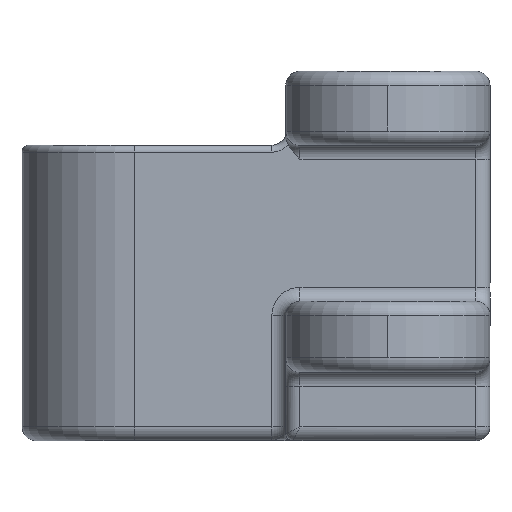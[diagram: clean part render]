
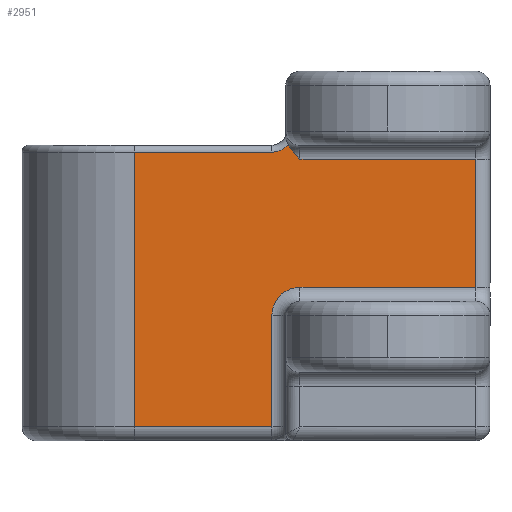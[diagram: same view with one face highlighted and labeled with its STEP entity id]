
A CAD part, left-side view. The second image highlights one B-rep face of the part: STEP entity #2951.
In plain terms, the highlighted planar face has unit normal (-1, 0, 0).
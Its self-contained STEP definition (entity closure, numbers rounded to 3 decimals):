
#29 = CARTESIAN_POINT ( 'NONE',  ( -16., 0., 0. ) ) ;
#60 = VERTEX_POINT ( 'NONE', #584 ) ;
#70 = VECTOR ( 'NONE', #2254, 1000. ) ;
#90 = ORIENTED_EDGE ( 'NONE', *, *, #859, .T. ) ;
#103 = DIRECTION ( 'NONE',  ( 0., -1., 0. ) ) ;
#158 = DIRECTION ( 'NONE',  ( 0., 1., 0. ) ) ;
#182 = CARTESIAN_POINT ( 'NONE',  ( -16., 36., 24.31 ) ) ;
#200 = CARTESIAN_POINT ( 'NONE',  ( -16., 36., 22.51 ) ) ;
#283 = CARTESIAN_POINT ( 'NONE',  ( -16., 14.172, 23.618 ) ) ;
#291 = VERTEX_POINT ( 'NONE', #772 ) ;
#405 = DIRECTION ( 'NONE',  ( 1., 0., 0. ) ) ;
#420 = CARTESIAN_POINT ( 'NONE',  ( -16., 12.5, -0.685 ) ) ;
#424 = CARTESIAN_POINT ( 'NONE',  ( -16., 16.5, -16.485 ) ) ;
#446 = DIRECTION ( 'NONE',  ( 0., 1., 0. ) ) ;
#473 = LINE ( 'NONE', #700, #1469 ) ;
#505 = VERTEX_POINT ( 'NONE', #570 ) ;
#539 = CARTESIAN_POINT ( 'NONE',  ( -16., 13.718, 22.842 ) ) ;
#570 = CARTESIAN_POINT ( 'NONE',  ( -16., 16.5, 22.51 ) ) ;
#584 = CARTESIAN_POINT ( 'NONE',  ( -16., 12.5, 3.315 ) ) ;
#700 = CARTESIAN_POINT ( 'NONE',  ( -16., 0., 21.515 ) ) ;
#740 = EDGE_CURVE ( 'NONE', #2162, #1848, #1975, .T. ) ;
#772 = CARTESIAN_POINT ( 'NONE',  ( -16., 36., 22.51 ) ) ;
#859 = EDGE_CURVE ( 'NONE', #1848, #2383, #2744, .T. ) ;
#928 = EDGE_CURVE ( 'NONE', #2816, #2387, #962, .T. ) ;
#937 = CARTESIAN_POINT ( 'NONE',  ( -16., 14.5, -16.485 ) ) ;
#962 = LINE ( 'NONE', #1856, #2396 ) ;
#1093 = DIRECTION ( 'NONE',  ( 0., 1., 0. ) ) ;
#1100 = EDGE_CURVE ( 'NONE', #2659, #505, #2730, .T. ) ;
#1105 = LINE ( 'NONE', #200, #2683 ) ;
#1139 = AXIS2_PLACEMENT_3D ( 'NONE', #2700, #405, #158 ) ;
#1145 = CARTESIAN_POINT ( 'NONE',  ( -16., 16.5, 6.815 ) ) ;
#1178 = DIRECTION ( 'NONE',  ( 0., -1., 0. ) ) ;
#1212 = EDGE_CURVE ( 'NONE', #60, #2383, #1333, .T. ) ;
#1287 = AXIS2_PLACEMENT_3D ( 'NONE', #420, #2723, #446 ) ;
#1332 = CARTESIAN_POINT ( 'NONE',  ( -16., 16.5, -0.685 ) ) ;
#1333 = CIRCLE ( 'NONE', #1287, 4. ) ;
#1345 = CARTESIAN_POINT ( 'NONE',  ( -16., -12.5, 3.315 ) ) ;
#1358 = DIRECTION ( 'NONE',  ( 0., 1., 0. ) ) ;
#1367 = AXIS2_PLACEMENT_3D ( 'NONE', #29, #2057, #1358 ) ;
#1378 = EDGE_CURVE ( 'NONE', #2516, #2659, #2862, .T. ) ;
#1441 = CARTESIAN_POINT ( 'NONE',  ( -16., 12.5, 21.515 ) ) ;
#1444 = CARTESIAN_POINT ( 'NONE',  ( -16., 13.138, 22.153 ) ) ;
#1469 = VECTOR ( 'NONE', #2117, 1000. ) ;
#1474 = CARTESIAN_POINT ( 'NONE',  ( -16., 13.979, 23.213 ) ) ;
#1495 = EDGE_CURVE ( 'NONE', #60, #2816, #2557, .T. ) ;
#1568 = ORIENTED_EDGE ( 'NONE', *, *, #2882, .T. ) ;
#1600 = PLANE ( 'NONE',  #1367 ) ;
#1683 = ORIENTED_EDGE ( 'NONE', *, *, #740, .T. ) ;
#1687 = ORIENTED_EDGE ( 'NONE', *, *, #1378, .T. ) ;
#1727 = VECTOR ( 'NONE', #1178, 1000. ) ;
#1815 = CARTESIAN_POINT ( 'NONE',  ( -16., 0., 3.315 ) ) ;
#1841 = DIRECTION ( 'NONE',  ( 0., 0., 1. ) ) ;
#1848 = VERTEX_POINT ( 'NONE', #424 ) ;
#1856 = CARTESIAN_POINT ( 'NONE',  ( -16., -12.5, 0. ) ) ;
#1896 = ORIENTED_EDGE ( 'NONE', *, *, #2397, .T. ) ;
#1975 = LINE ( 'NONE', #937, #2105 ) ;
#2009 = CARTESIAN_POINT ( 'NONE',  ( -16., 36., -16.485 ) ) ;
#2057 = DIRECTION ( 'NONE',  ( 1., 0., 0. ) ) ;
#2074 = DIRECTION ( 'NONE',  ( 0., 0., 1. ) ) ;
#2098 = FACE_OUTER_BOUND ( 'NONE', #2937, .T. ) ;
#2105 = VECTOR ( 'NONE', #103, 1000. ) ;
#2117 = DIRECTION ( 'NONE',  ( 0., 1., 0. ) ) ;
#2138 = EDGE_CURVE ( 'NONE', #505, #291, #1105, .T. ) ;
#2162 = VERTEX_POINT ( 'NONE', #2009 ) ;
#2234 = LINE ( 'NONE', #182, #70 ) ;
#2254 = DIRECTION ( 'NONE',  ( 0., 0., -1. ) ) ;
#2260 = ORIENTED_EDGE ( 'NONE', *, *, #2138, .T. ) ;
#2343 = ORIENTED_EDGE ( 'NONE', *, *, #1212, .F. ) ;
#2383 = VERTEX_POINT ( 'NONE', #1332 ) ;
#2387 = VERTEX_POINT ( 'NONE', #2949 ) ;
#2396 = VECTOR ( 'NONE', #1841, 1000. ) ;
#2397 = EDGE_CURVE ( 'NONE', #291, #2162, #2234, .T. ) ;
#2403 = ORIENTED_EDGE ( 'NONE', *, *, #928, .T. ) ;
#2516 = VERTEX_POINT ( 'NONE', #1441 ) ;
#2532 = ORIENTED_EDGE ( 'NONE', *, *, #1100, .T. ) ;
#2540 = VECTOR ( 'NONE', #2074, 1000. ) ;
#2557 = LINE ( 'NONE', #1815, #1727 ) ;
#2595 = CARTESIAN_POINT ( 'NONE',  ( -16., 12.818, 21.833 ) ) ;
#2624 = CARTESIAN_POINT ( 'NONE',  ( -16., 12.5, 21.515 ) ) ;
#2659 = VERTEX_POINT ( 'NONE', #2663 ) ;
#2663 = CARTESIAN_POINT ( 'NONE',  ( -16., 14.172, 23.618 ) ) ;
#2683 = VECTOR ( 'NONE', #1093, 1000. ) ;
#2700 = CARTESIAN_POINT ( 'NONE',  ( -16., 16.5, 25.51 ) ) ;
#2723 = DIRECTION ( 'NONE',  ( -1., 0., 0. ) ) ;
#2730 = CIRCLE ( 'NONE', #1139, 3. ) ;
#2744 = LINE ( 'NONE', #1145, #2540 ) ;
#2816 = VERTEX_POINT ( 'NONE', #1345 ) ;
#2851 = ORIENTED_EDGE ( 'NONE', *, *, #1495, .T. ) ;
#2862 = B_SPLINE_CURVE_WITH_KNOTS ( 'NONE', 3,
 ( #2624, #2595, #1444, #539, #1474, #283 ),
 .UNSPECIFIED., .F., .F.,
 ( 4, 2, 4 ),
 ( 0., 0.001, 0.003 ),
 .UNSPECIFIED. ) ;
#2882 = EDGE_CURVE ( 'NONE', #2387, #2516, #473, .T. ) ;
#2937 = EDGE_LOOP ( 'NONE', ( #1687, #2532, #2260, #1896, #1683, #90, #2343, #2851, #2403, #1568 ) ) ;
#2949 = CARTESIAN_POINT ( 'NONE',  ( -16., -12.5, 21.515 ) ) ;
#2951 = ADVANCED_FACE ( 'NONE', ( #2098 ), #1600, .F. ) ;
